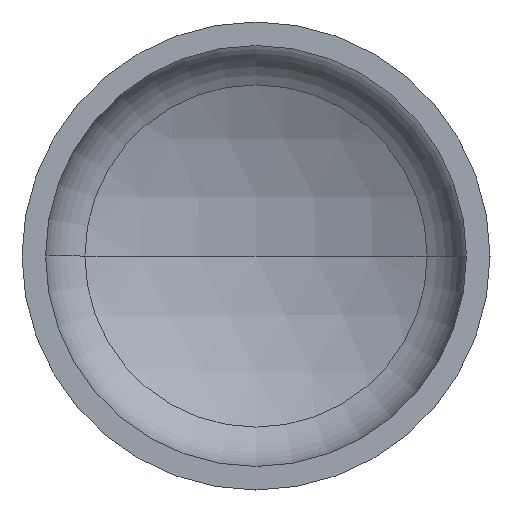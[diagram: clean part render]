
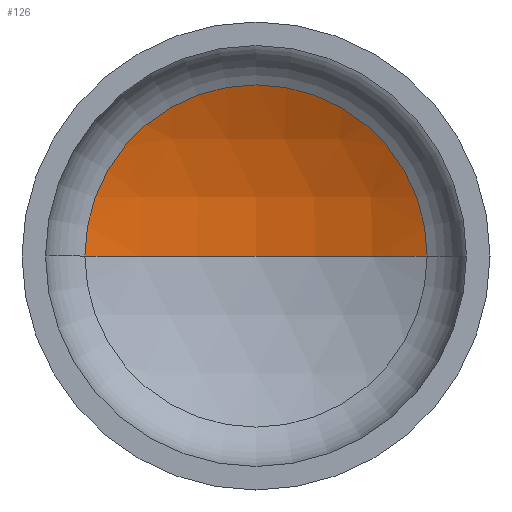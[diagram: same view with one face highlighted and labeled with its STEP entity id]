
A CAD part, front view. The second image highlights one B-rep face of the part: STEP entity #126.
In plain terms, the highlighted spherical face has radius 175 mm.
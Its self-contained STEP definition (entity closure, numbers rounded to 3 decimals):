
#7 = VERTEX_POINT ( 'NONE', #14 ) ;
#8 = VERTEX_POINT ( 'NONE', #18 ) ;
#11 = ORIENTED_EDGE ( 'NONE', *, *, #190, .T. ) ;
#14 = CARTESIAN_POINT ( 'NONE',  ( 0., 89.643, 0. ) ) ;
#18 = CARTESIAN_POINT ( 'NONE',  ( 80.115, 70.228, 0. ) ) ;
#37 = ORIENTED_EDGE ( 'NONE', *, *, #168, .T. ) ;
#42 = EDGE_LOOP ( 'NONE', ( #50, #11, #37 ) ) ;
#50 = ORIENTED_EDGE ( 'NONE', *, *, #107, .F. ) ;
#100 = VERTEX_POINT ( 'NONE', #194 ) ;
#107 = EDGE_CURVE ( 'NONE', #7, #100, #359, .T. ) ;
#126 = ADVANCED_FACE ( 'NONE', ( #149 ), #161, .F. ) ;
#134 = CIRCLE ( 'NONE', #146, 175. ) ;
#145 = DIRECTION ( 'NONE',  ( 1., 0., 0. ) ) ;
#146 = AXIS2_PLACEMENT_3D ( 'NONE', #147, #338, #179 ) ;
#147 = CARTESIAN_POINT ( 'NONE',  ( 0., -85.357, 0. ) ) ;
#149 = FACE_OUTER_BOUND ( 'NONE', #42, .T. ) ;
#161 = SPHERICAL_SURFACE ( 'NONE', #364, 175. ) ;
#162 = DIRECTION ( 'NONE',  ( -1., 0., 0. ) ) ;
#168 = EDGE_CURVE ( 'NONE', #8, #100, #403, .T. ) ;
#172 = CARTESIAN_POINT ( 'NONE',  ( 0., 70.228, 0. ) ) ;
#179 = DIRECTION ( 'NONE',  ( -1., 0., 0. ) ) ;
#190 = EDGE_CURVE ( 'NONE', #7, #8, #134, .T. ) ;
#194 = CARTESIAN_POINT ( 'NONE',  ( -80.115, 70.228, 0. ) ) ;
#220 = DIRECTION ( 'NONE',  ( 1., 0., 0. ) ) ;
#221 = DIRECTION ( 'NONE',  ( 0., 0., 1. ) ) ;
#225 = CARTESIAN_POINT ( 'NONE',  ( 0., -85.357, 0. ) ) ;
#229 = DIRECTION ( 'NONE',  ( 0., 0., -1. ) ) ;
#257 = CARTESIAN_POINT ( 'NONE',  ( 0., -85.357, 0. ) ) ;
#322 = AXIS2_PLACEMENT_3D ( 'NONE', #225, #221, #220 ) ;
#336 = DIRECTION ( 'NONE',  ( 0., -1., 0. ) ) ;
#338 = DIRECTION ( 'NONE',  ( 0., 0., -1. ) ) ;
#359 = CIRCLE ( 'NONE', #322, 175. ) ;
#364 = AXIS2_PLACEMENT_3D ( 'NONE', #257, #229, #162 ) ;
#403 = CIRCLE ( 'NONE', #408, 80.115 ) ;
#408 = AXIS2_PLACEMENT_3D ( 'NONE', #172, #336, #145 ) ;
